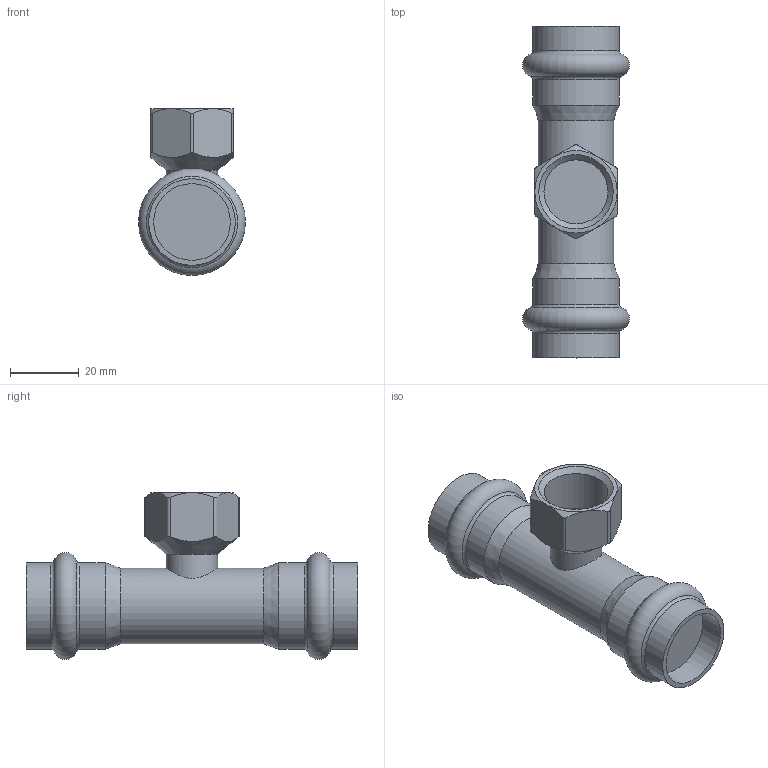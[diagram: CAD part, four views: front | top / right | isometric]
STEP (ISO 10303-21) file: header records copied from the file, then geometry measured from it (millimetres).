
FILE_DESCRIPTION(('STEP AP203'), '1');
FILE_NAME('VTi.932.I.220422', '', ('UNSPECIFIED'), ('UNSPECIFIED'), 'C3D Converter', 'C3D Toolkit', '');
FILE_SCHEMA(('CONFIG_CONTROL_DESIGN'));
Length unit declared in the file: millimetre
Bounding box: 31.08 x 96.5 x 48.54 mm (x, y, z)
Volume: 44824.9 mm3; surface area: 12722.4 mm2
Topology: 1 solids, 1 shells, 43 faces, 94 edges, 56 vertices
Faces by surface type: cylinder 15, plane 12, cone 10, torus 6
Full cylindrical faces by diameter (mm): 15 x1, 18.632 x1, 22 x1, 22.3 x2, 25.2 x4
Entity records: 2243 total; most frequent: CARTESIAN_POINT 1389, DIRECTION 156, ORIENTED_EDGE 148, EDGE_CURVE 74, AXIS2_PLACEMENT_3D 72, EDGE_LOOP 66, VERTEX_POINT 56, ADVANCED_FACE 43
